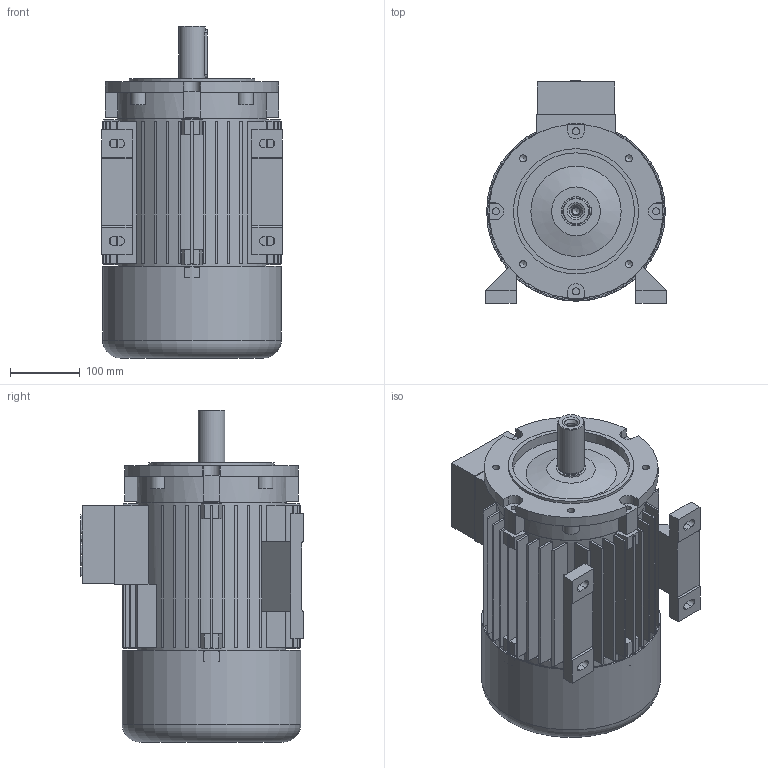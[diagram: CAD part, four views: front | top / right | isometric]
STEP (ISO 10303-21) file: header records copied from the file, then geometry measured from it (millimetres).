
FILE_DESCRIPTION (( 'STEP AP214' ), '1' );
FILE_NAME ('20.18275-E 5AZ 132S B34 STANDK.STEP', '2020-07-08T07:52:19', ( '' ), ( '' ), 'SwSTEP 2.0', 'SolidWorks 2020', '' );
FILE_SCHEMA (( 'AUTOMOTIVE_DESIGN' ));
Length unit declared in the file: millimetre
Products named in the file (1): 20.18275-E 5AZ 132S B34 STANDK
Bounding box: 260 x 320 x 477 mm (x, y, z)
Volume: 5546927.5 mm3; surface area: 1422524.7 mm2
Topology: 7 solids, 7 shells, 500 faces, 1276 edges, 847 vertices
Faces by surface type: plane 367, cylinder 116, cone 15, torus 2
Full cylindrical faces by diameter (mm): 10 x4, 10.2 x4, 10.5 x1, 13 x1, 36.4 x1, 38 x1, 40.3 x1, 42 x1, 46 x1, 70 x1, 80 x1, 92.143 x1, 113.76 x1, 168 x1, 180 x1, 197.5 x1, 202.16 x1, 203 x1, 208 x1, 214 x1, 215 x1, 222 x1, 250 x1, 253 x1, 257 x1
Entity records: 14938 total; most frequent: CARTESIAN_POINT 2626, DIRECTION 2585, ORIENTED_EDGE 2410, EDGE_CURVE 1205, AXIS2_PLACEMENT_3D 889, VERTEX_POINT 826, LINE 807, VECTOR 807
